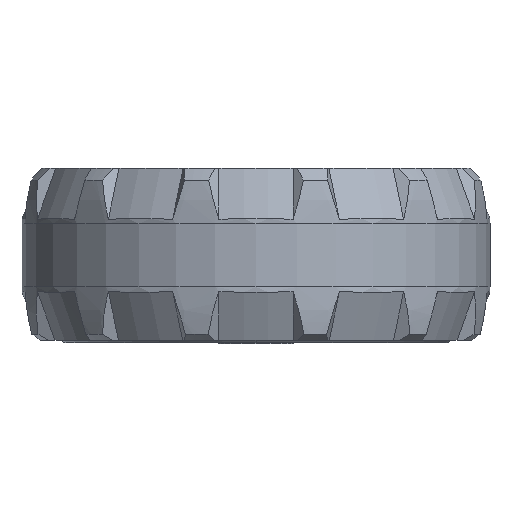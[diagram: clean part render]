
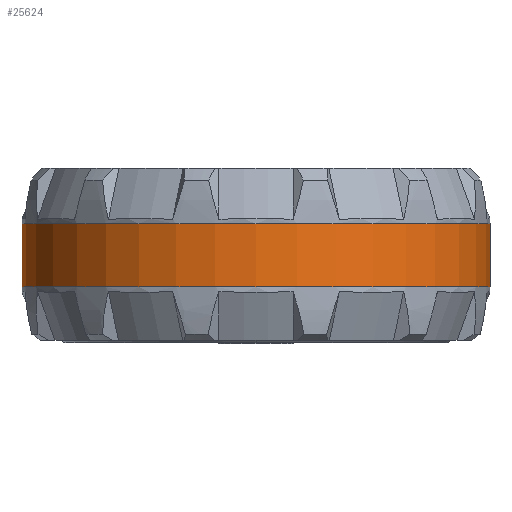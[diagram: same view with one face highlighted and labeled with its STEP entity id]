
A CAD part, front view. The second image highlights one B-rep face of the part: STEP entity #25624.
In plain terms, the highlighted cylindrical face has radius 25.25 mm (diameter 50.5 mm), a partial arc.
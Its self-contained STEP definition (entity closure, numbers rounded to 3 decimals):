
#976 = LINE ( 'NONE', #10559, #17672 ) ;
#1390 = VERTEX_POINT ( 'NONE', #27545 ) ;
#2205 = FACE_OUTER_BOUND ( 'NONE', #19912, .T. ) ;
#2793 = AXIS2_PLACEMENT_3D ( 'NONE', #8753, #8424, #22880 ) ;
#3270 = ORIENTED_EDGE ( 'NONE', *, *, #20784, .F. ) ;
#3874 = EDGE_CURVE ( 'NONE', #15614, #28773, #25445, .T. ) ;
#3932 = CARTESIAN_POINT ( 'NONE',  ( -25.25, 0., -4.11 ) ) ;
#4203 = ORIENTED_EDGE ( 'NONE', *, *, #3874, .T. ) ;
#5749 = ORIENTED_EDGE ( 'NONE', *, *, #19706, .T. ) ;
#6006 = CARTESIAN_POINT ( 'NONE',  ( 0., 0., -4.11 ) ) ;
#6180 = DIRECTION ( 'NONE',  ( -1., 0., 0. ) ) ;
#7415 = CARTESIAN_POINT ( 'NONE',  ( 25.25, 0., 9.75 ) ) ;
#8424 = DIRECTION ( 'NONE',  ( 0., 0., -1. ) ) ;
#8753 = CARTESIAN_POINT ( 'NONE',  ( 0., 0., 2.95 ) ) ;
#10559 = CARTESIAN_POINT ( 'NONE',  ( 25.25, 0., -4.11 ) ) ;
#13403 = CARTESIAN_POINT ( 'NONE',  ( -25.25, 0., 9.75 ) ) ;
#13969 = DIRECTION ( 'NONE',  ( 0., 0., -1. ) ) ;
#14633 = AXIS2_PLACEMENT_3D ( 'NONE', #16827, #15215, #19775 ) ;
#15215 = DIRECTION ( 'NONE',  ( 0., 0., -1. ) ) ;
#15614 = VERTEX_POINT ( 'NONE', #13403 ) ;
#16827 = CARTESIAN_POINT ( 'NONE',  ( 0., 0., 9.75 ) ) ;
#17672 = VECTOR ( 'NONE', #20151, 1000. ) ;
#19706 = EDGE_CURVE ( 'NONE', #25979, #15614, #28191, .T. ) ;
#19775 = DIRECTION ( 'NONE',  ( -1., 0., 0. ) ) ;
#19912 = EDGE_LOOP ( 'NONE', ( #3270, #5749, #4203, #23211 ) ) ;
#20151 = DIRECTION ( 'NONE',  ( 0., 0., -1. ) ) ;
#20608 = CYLINDRICAL_SURFACE ( 'NONE', #29278, 25.25 ) ;
#20784 = EDGE_CURVE ( 'NONE', #25979, #1390, #976, .T. ) ;
#21205 = DIRECTION ( 'NONE',  ( 0., 0., -1. ) ) ;
#22880 = DIRECTION ( 'NONE',  ( -1., 0., 0. ) ) ;
#23176 = VECTOR ( 'NONE', #13969, 1000. ) ;
#23211 = ORIENTED_EDGE ( 'NONE', *, *, #29289, .F. ) ;
#25356 = CIRCLE ( 'NONE', #2793, 25.25 ) ;
#25445 = LINE ( 'NONE', #3932, #23176 ) ;
#25624 = ADVANCED_FACE ( 'NONE', ( #2205 ), #20608, .T. ) ;
#25979 = VERTEX_POINT ( 'NONE', #7415 ) ;
#26887 = CARTESIAN_POINT ( 'NONE',  ( -25.25, 0., 2.95 ) ) ;
#27545 = CARTESIAN_POINT ( 'NONE',  ( 25.25, 0., 2.95 ) ) ;
#28191 = CIRCLE ( 'NONE', #14633, 25.25 ) ;
#28773 = VERTEX_POINT ( 'NONE', #26887 ) ;
#29278 = AXIS2_PLACEMENT_3D ( 'NONE', #6006, #21205, #6180 ) ;
#29289 = EDGE_CURVE ( 'NONE', #1390, #28773, #25356, .T. ) ;
